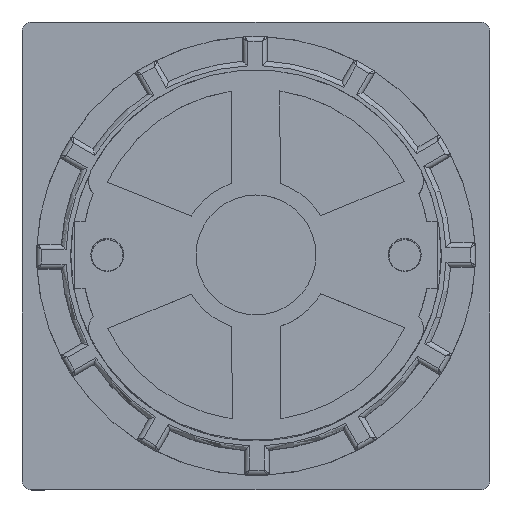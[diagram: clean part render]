
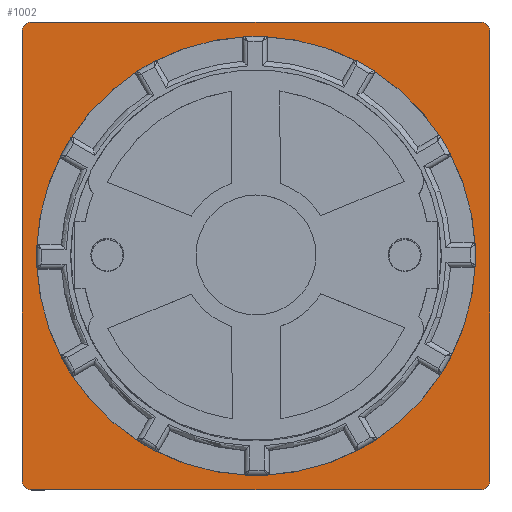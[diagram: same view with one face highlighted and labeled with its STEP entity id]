
A CAD part, top view. The second image highlights one B-rep face of the part: STEP entity #1002.
In plain terms, the highlighted planar face has unit normal (0, 0, 1).
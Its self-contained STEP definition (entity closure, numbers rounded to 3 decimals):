
#1002=ADVANCED_FACE('',(#3815,#3816),#1508,.F.);
#1508=PLANE('',#11002);
#2044=LINE('',#16329,#2938);
#2045=LINE('',#16334,#2939);
#2046=LINE('',#16338,#2940);
#2047=LINE('',#16342,#2941);
#2938=VECTOR('',#12512,1.);
#2939=VECTOR('',#12515,1.);
#2940=VECTOR('',#12518,1.);
#2941=VECTOR('',#12521,1.);
#3815=FACE_BOUND('',#4143,.T.);
#3816=FACE_BOUND('',#4144,.T.);
#4143=EDGE_LOOP('',(#5429,#5430,#5431,#5432,#5433,#5434,#5435,#5436));
#4144=EDGE_LOOP('',(#5437));
#5429=ORIENTED_EDGE('',*,*,#9178,.F.);
#5430=ORIENTED_EDGE('',*,*,#9179,.F.);
#5431=ORIENTED_EDGE('',*,*,#9180,.F.);
#5432=ORIENTED_EDGE('',*,*,#9181,.F.);
#5433=ORIENTED_EDGE('',*,*,#9182,.F.);
#5434=ORIENTED_EDGE('',*,*,#9183,.F.);
#5435=ORIENTED_EDGE('',*,*,#9184,.F.);
#5436=ORIENTED_EDGE('',*,*,#9185,.F.);
#5437=ORIENTED_EDGE('',*,*,#9140,.T.);
#7988=VERTEX_POINT('',#16234);
#8006=VERTEX_POINT('',#16330);
#8007=VERTEX_POINT('',#16331);
#8008=VERTEX_POINT('',#16333);
#8009=VERTEX_POINT('',#16335);
#8010=VERTEX_POINT('',#16337);
#8011=VERTEX_POINT('',#16339);
#8012=VERTEX_POINT('',#16341);
#8013=VERTEX_POINT('',#16343);
#9140=EDGE_CURVE('',#7988,#7988,#10398,.T.);
#9178=EDGE_CURVE('',#8006,#8007,#2044,.T.);
#9179=EDGE_CURVE('',#8008,#8006,#10428,.T.);
#9180=EDGE_CURVE('',#8009,#8008,#2045,.T.);
#9181=EDGE_CURVE('',#8010,#8009,#10429,.T.);
#9182=EDGE_CURVE('',#8011,#8010,#2046,.T.);
#9183=EDGE_CURVE('',#8012,#8011,#10430,.T.);
#9184=EDGE_CURVE('',#8013,#8012,#2047,.T.);
#9185=EDGE_CURVE('',#8007,#8013,#10431,.T.);
#10398=CIRCLE('',#10960,22.5);
#10428=CIRCLE('',#10998,1.);
#10429=CIRCLE('',#10999,1.);
#10430=CIRCLE('',#11000,1.);
#10431=CIRCLE('',#11001,1.);
#10960=AXIS2_PLACEMENT_3D('',#16233,#12428,#12429);
#10998=AXIS2_PLACEMENT_3D('',#16332,#12513,#12514);
#10999=AXIS2_PLACEMENT_3D('',#16336,#12516,#12517);
#11000=AXIS2_PLACEMENT_3D('',#16340,#12519,#12520);
#11001=AXIS2_PLACEMENT_3D('',#16344,#12522,#12523);
#11002=AXIS2_PLACEMENT_3D('',#16345,#12524,#12525);
#12428=DIRECTION('',(0.,0.,-1.));
#12429=DIRECTION('',(0.,1.,0.));
#12512=DIRECTION('',(0.,1.,0.));
#12513=DIRECTION('',(0.,0.,-1.));
#12514=DIRECTION('',(1.,0.,0.));
#12515=DIRECTION('',(-1.,0.,0.));
#12516=DIRECTION('',(0.,0.,-1.));
#12517=DIRECTION('',(1.,0.,0.));
#12518=DIRECTION('',(0.,-1.,0.));
#12519=DIRECTION('',(0.,0.,-1.));
#12520=DIRECTION('',(1.,0.,0.));
#12521=DIRECTION('',(1.,0.,0.));
#12522=DIRECTION('',(0.,0.,-1.));
#12523=DIRECTION('',(1.,0.,0.));
#12524=DIRECTION('',(0.,0.,-1.));
#12525=DIRECTION('',(-1.,0.,0.));
#16233=CARTESIAN_POINT('',(0.,0.,-18.4));
#16234=CARTESIAN_POINT('',(0.,22.5,-18.4));
#16329=CARTESIAN_POINT('',(-24.,-23.,-18.4));
#16330=CARTESIAN_POINT('',(-24.,-23.,-18.4));
#16331=CARTESIAN_POINT('',(-24.,23.,-18.4));
#16332=CARTESIAN_POINT('',(-23.,-23.,-18.4));
#16333=CARTESIAN_POINT('',(-23.,-24.,-18.4));
#16334=CARTESIAN_POINT('',(23.,-24.,-18.4));
#16335=CARTESIAN_POINT('',(23.,-24.,-18.4));
#16336=CARTESIAN_POINT('',(23.,-23.,-18.4));
#16337=CARTESIAN_POINT('',(24.,-23.,-18.4));
#16338=CARTESIAN_POINT('',(24.,23.,-18.4));
#16339=CARTESIAN_POINT('',(24.,23.,-18.4));
#16340=CARTESIAN_POINT('',(23.,23.,-18.4));
#16341=CARTESIAN_POINT('',(23.,24.,-18.4));
#16342=CARTESIAN_POINT('',(-23.,24.,-18.4));
#16343=CARTESIAN_POINT('',(-23.,24.,-18.4));
#16344=CARTESIAN_POINT('',(-23.,23.,-18.4));
#16345=CARTESIAN_POINT('',(-23.,23.,-18.4));
